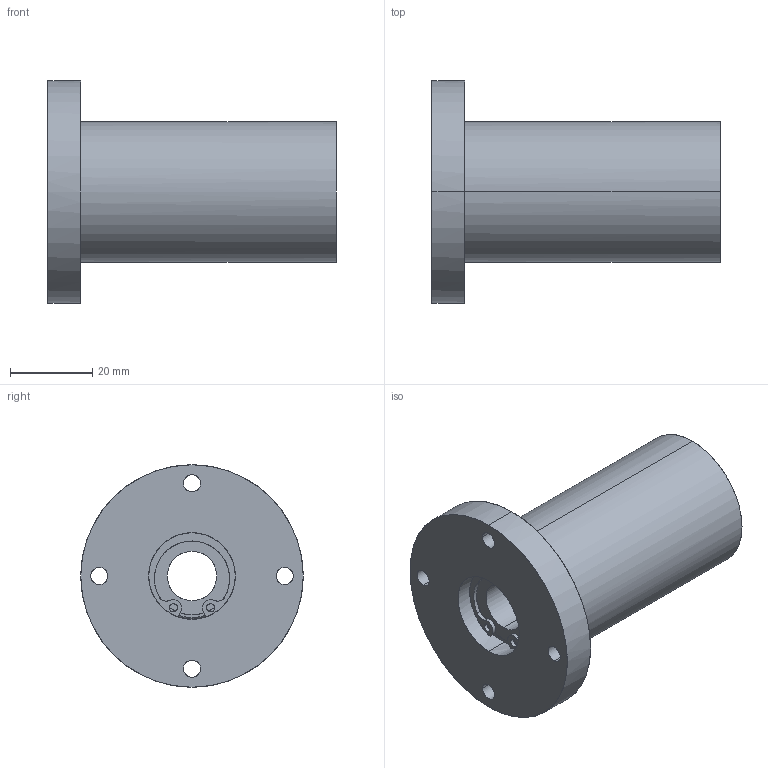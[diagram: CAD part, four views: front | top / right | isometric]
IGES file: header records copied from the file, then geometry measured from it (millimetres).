
Global section: file name: No Iges File Name specified; native system: AutoDesk Inventor R10; preprocessor: AutoDesk Inventor Iges Exporter R10; author: No Author specified; organization: No Organization specified; date: 20101214.134537; units: millimetre
Bounding box: 70 x 54 x 54 mm (x, y, z)
Surface area: 17520.5 mm2 (no closed solid volume)
Topology: 0 solids, 0 shells, 111 faces, 816 edges, 816 vertices
Faces by surface type: bspline 111
